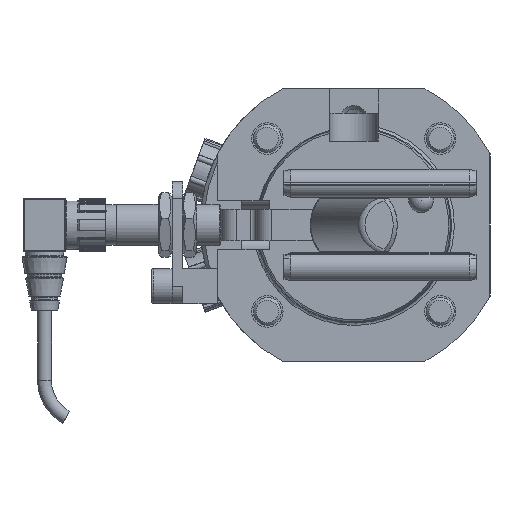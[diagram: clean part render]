
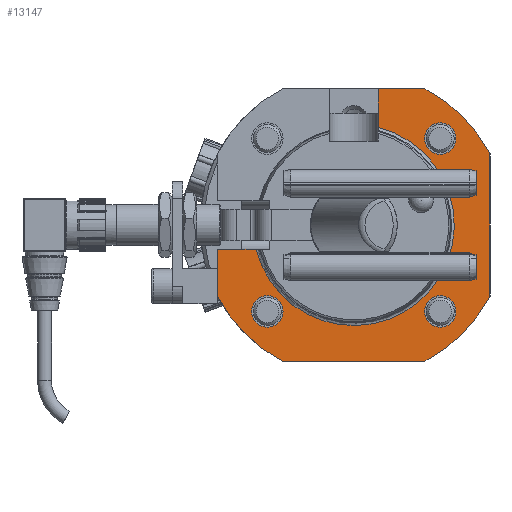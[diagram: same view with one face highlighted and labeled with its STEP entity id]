
A CAD part, left-side view. The second image highlights one B-rep face of the part: STEP entity #13147.
In plain terms, the highlighted planar face has unit normal (-1, 0, 0).
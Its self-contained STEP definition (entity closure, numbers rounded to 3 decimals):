
#502=FACE_BOUND('',#3080,.T.);
#503=FACE_BOUND('',#3081,.T.);
#504=FACE_BOUND('',#3082,.T.);
#1193=CIRCLE('',#14223,44.);
#1194=CIRCLE('',#14225,44.);
#1208=CIRCLE('',#14257,28.785);
#1209=CIRCLE('',#14258,44.);
#1210=CIRCLE('',#14259,4.5);
#1211=CIRCLE('',#14260,4.5);
#1212=CIRCLE('',#14261,4.5);
#2092=FACE_OUTER_BOUND('',#3079,.T.);
#3079=EDGE_LOOP('',(#9415,#9416,#9417,#9418,#9419,#9420,#9421,#9422,#9423,
#9424));
#3080=EDGE_LOOP('',(#9425));
#3081=EDGE_LOOP('',(#9426));
#3082=EDGE_LOOP('',(#9427));
#4059=LINE('',#21688,#4831);
#4060=LINE('',#21691,#4832);
#4067=LINE('',#21708,#4839);
#4080=LINE('',#21771,#4852);
#4089=LINE('',#21803,#4861);
#4095=LINE('',#21840,#4867);
#4831=VECTOR('',#16515,40.743);
#4832=VECTOR('',#16518,40.743);
#4839=VECTOR('',#16533,11.079);
#4852=VECTOR('',#16572,13.372);
#4861=VECTOR('',#16593,11.079);
#4867=VECTOR('',#16613,13.372);
#5798=VERTEX_POINT('',#21676);
#5799=VERTEX_POINT('',#21678);
#5800=VERTEX_POINT('',#21682);
#5801=VERTEX_POINT('',#21684);
#5802=VERTEX_POINT('',#21690);
#5807=VERTEX_POINT('',#21705);
#5808=VERTEX_POINT('',#21707);
#5823=VERTEX_POINT('',#21769);
#5834=VERTEX_POINT('',#21802);
#5842=VERTEX_POINT('',#21839);
#5843=VERTEX_POINT('',#21842);
#5844=VERTEX_POINT('',#21844);
#5845=VERTEX_POINT('',#21846);
#7133=EDGE_CURVE('',#5799,#5798,#1193,.T.);
#7135=EDGE_CURVE('',#5800,#5801,#1194,.T.);
#7137=EDGE_CURVE('',#5799,#5801,#4059,.T.);
#7138=EDGE_CURVE('',#5802,#5798,#4060,.T.);
#7147=EDGE_CURVE('',#5808,#5807,#4067,.T.);
#7169=EDGE_CURVE('',#5800,#5823,#4080,.T.);
#7184=EDGE_CURVE('',#5823,#5834,#4089,.T.);
#7196=EDGE_CURVE('',#5808,#5834,#1208,.T.);
#7197=EDGE_CURVE('',#5807,#5842,#4095,.T.);
#7198=EDGE_CURVE('',#5802,#5842,#1209,.T.);
#7199=EDGE_CURVE('',#5843,#5843,#1210,.T.);
#7200=EDGE_CURVE('',#5844,#5844,#1211,.T.);
#7201=EDGE_CURVE('',#5845,#5845,#1212,.T.);
#9415=ORIENTED_EDGE('',*,*,#7196,.F.);
#9416=ORIENTED_EDGE('',*,*,#7147,.T.);
#9417=ORIENTED_EDGE('',*,*,#7197,.T.);
#9418=ORIENTED_EDGE('',*,*,#7198,.F.);
#9419=ORIENTED_EDGE('',*,*,#7138,.T.);
#9420=ORIENTED_EDGE('',*,*,#7133,.F.);
#9421=ORIENTED_EDGE('',*,*,#7137,.T.);
#9422=ORIENTED_EDGE('',*,*,#7135,.F.);
#9423=ORIENTED_EDGE('',*,*,#7169,.T.);
#9424=ORIENTED_EDGE('',*,*,#7184,.T.);
#9425=ORIENTED_EDGE('',*,*,#7199,.T.);
#9426=ORIENTED_EDGE('',*,*,#7200,.T.);
#9427=ORIENTED_EDGE('',*,*,#7201,.T.);
#11806=PLANE('',#14256);
#13147=ADVANCED_FACE('',(#2092,#502,#503,#504),#11806,.T.);
#14223=AXIS2_PLACEMENT_3D('',#21680,#16505,#16506);
#14225=AXIS2_PLACEMENT_3D('',#21685,#16510,#16511);
#14256=AXIS2_PLACEMENT_3D('',#21837,#16609,#16610);
#14257=AXIS2_PLACEMENT_3D('',#21838,#16611,#16612);
#14258=AXIS2_PLACEMENT_3D('',#21841,#16614,#16615);
#14259=AXIS2_PLACEMENT_3D('',#21843,#16616,#16617);
#14260=AXIS2_PLACEMENT_3D('',#21845,#16618,#16619);
#14261=AXIS2_PLACEMENT_3D('',#21847,#16620,#16621);
#16505=DIRECTION('center_axis',(1.,0.,0.));
#16506=DIRECTION('ref_axis',(0.,1.,0.));
#16510=DIRECTION('center_axis',(1.,0.,0.));
#16511=DIRECTION('ref_axis',(0.,1.,0.));
#16515=DIRECTION('',(0.,0.,1.));
#16518=DIRECTION('',(0.,-1.,0.));
#16533=DIRECTION('',(0.,1.,0.));
#16572=DIRECTION('',(0.,1.,0.));
#16593=DIRECTION('',(0.,0.,-1.));
#16609=DIRECTION('center_axis',(-1.,0.,0.));
#16610=DIRECTION('ref_axis',(0.,0.,1.));
#16611=DIRECTION('center_axis',(-1.,0.,0.));
#16612=DIRECTION('ref_axis',(0.,-0.707,-0.707));
#16613=DIRECTION('',(0.,0.,-1.));
#16614=DIRECTION('center_axis',(1.,0.,0.));
#16615=DIRECTION('ref_axis',(0.,1.,0.));
#16616=DIRECTION('center_axis',(1.,0.,0.));
#16617=DIRECTION('ref_axis',(0.,0.,
1.));
#16618=DIRECTION('center_axis',(1.,0.,0.));
#16619=DIRECTION('ref_axis',(0.,1.,0.));
#16620=DIRECTION('center_axis',(1.,0.,0.));
#16621=DIRECTION('ref_axis',(0.,-1.,0.));
#21676=CARTESIAN_POINT('',(-83.,-20.372,-39.));
#21678=CARTESIAN_POINT('',(-83.,-39.,-20.372));
#21680=CARTESIAN_POINT('Origin',(-83.,0.,0.));
#21682=CARTESIAN_POINT('',(-83.,-20.372,39.));
#21684=CARTESIAN_POINT('',(-83.,-39.,20.372));
#21685=CARTESIAN_POINT('Origin',(-83.,0.,0.));
#21688=CARTESIAN_POINT('',(-83.,-39.,10.186));
#21690=CARTESIAN_POINT('',(-83.,20.372,-39.));
#21691=CARTESIAN_POINT('',(-83.,7.81,-39.));
#21705=CARTESIAN_POINT('',(-83.,39.,-7.));
#21707=CARTESIAN_POINT('',(-83.,27.921,-7.));
#21708=CARTESIAN_POINT('',(-83.,37.496,-7.));
#21769=CARTESIAN_POINT('',(-83.,-7.,39.));
#21771=CARTESIAN_POINT('',(-83.,28.182,39.));
#21802=CARTESIAN_POINT('',(-83.,-7.,27.921));
#21803=CARTESIAN_POINT('',(-83.,-7.,19.5));
#21837=CARTESIAN_POINT('Origin',(-83.,35.993,0.));
#21838=CARTESIAN_POINT('Origin',(-83.,0.,0.));
#21839=CARTESIAN_POINT('',(-83.,39.,-20.372));
#21840=CARTESIAN_POINT('',(-83.,39.,-10.186));
#21841=CARTESIAN_POINT('Origin',(-83.,0.,0.));
#21842=CARTESIAN_POINT('',(-83.,-24.749,-29.249));
#21843=CARTESIAN_POINT('Origin',(-83.,-24.749,-24.749));
#21844=CARTESIAN_POINT('',(-83.,-29.249,24.749));
#21845=CARTESIAN_POINT('Origin',(-83.,-24.749,24.749));
#21846=CARTESIAN_POINT('',(-83.,29.249,-24.749));
#21847=CARTESIAN_POINT('Origin',(-83.,24.749,-24.749));
